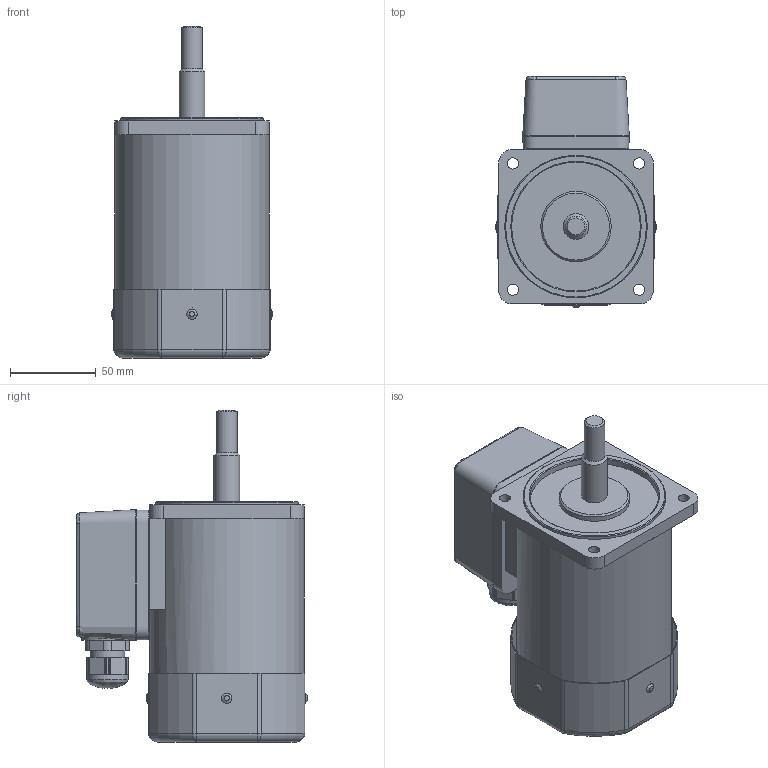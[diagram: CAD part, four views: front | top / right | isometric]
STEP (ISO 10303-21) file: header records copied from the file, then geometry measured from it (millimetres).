
FILE_DESCRIPTION (( 'STEP AP203' ), '1' );
FILE_NAME ('9IDG¤±-90FHC-T.STEP', '2020-06-19T08:03:57', ( '' ), ( '' ), 'SwSTEP 2.0', 'SolidWorks 2012', '' );
FILE_SCHEMA (( 'CONFIG_CONTROL_DESIGN' ));
Length unit declared in the file: millimetre
Products named in the file (4): 9IDG､ｱ-90FHC-T; FC-F_ル遽; TB6276; 9IDG､ｱ-90HC-T_ﾇ･ﾁﾘ
Assembly tree (3 placements, depth 2):
  9IDG､ｱ-90FHC-T
    9IDG､ｱ-90HC-T_ﾇ･ﾁﾘ
    TB6276
    FC-F_ル遽
Bounding box: 94 x 134.5 x 193.3 mm (x, y, z)
Volume: 981967.2 mm3; surface area: 114076.9 mm2
Topology: 3 solids, 8 shells, 459 faces, 1173 edges, 765 vertices
Faces by surface type: cylinder 208, plane 185, bspline 35, sphere 16, torus 9, cone 6
Full cylindrical faces by diameter (mm): 2.911 x1, 3 x12, 3.5 x4, 3.841 x1, 6.1 x1, 6.5 x4, 10.2 x1, 11.93 x1, 15 x1, 20 x1, 24 x1, 38 x1, 41 x1, 67 x1, 75 x1, 83 x1, 86.5 x1, 90 x1
Entity records: 15400 total; most frequent: CARTESIAN_POINT 3946, DIRECTION 2366, ORIENTED_EDGE 2194, EDGE_CURVE 1097, AXIS2_PLACEMENT_3D 906, VERTEX_POINT 747, EDGE_LOOP 586, VECTOR 554
